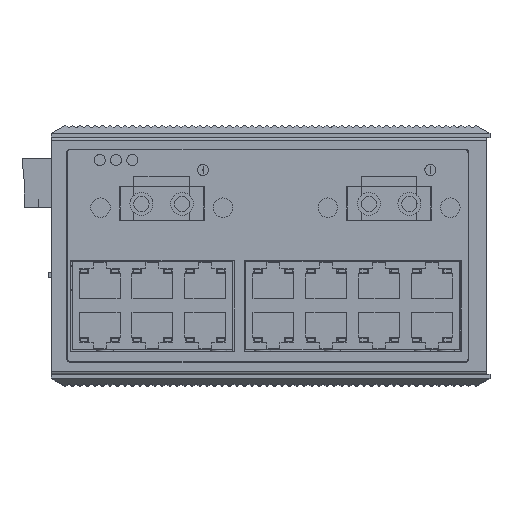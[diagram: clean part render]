
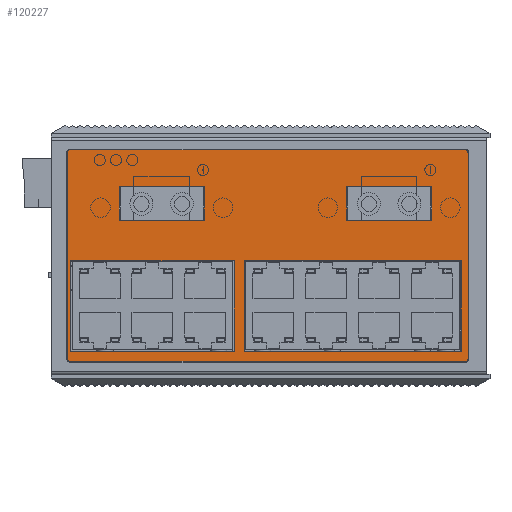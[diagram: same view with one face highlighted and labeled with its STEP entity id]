
A CAD part, top view. The second image highlights one B-rep face of the part: STEP entity #120227.
In plain terms, the highlighted planar face has unit normal (0, 0, 1).
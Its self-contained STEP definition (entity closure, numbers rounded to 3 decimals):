
#119704=DIRECTION('',(0.,1.,0.));
#119705=VECTOR('',#119704,63.5);
#119706=CARTESIAN_POINT('',(-60.63,-30.85,49.3));
#119707=LINE('',#119706,#119705);
#119716=DIRECTION('',(-1.,0.,0.));
#119717=VECTOR('',#119716,121.76);
#119718=CARTESIAN_POINT('',(61.93,-31.65,49.3));
#119719=LINE('',#119718,#119717);
#119728=DIRECTION('',(0.,-1.,0.));
#119729=VECTOR('',#119728,63.5);
#119730=CARTESIAN_POINT('',(62.73,32.65,49.3));
#119731=LINE('',#119730,#119729);
#119740=DIRECTION('',(1.,0.,0.));
#119741=VECTOR('',#119740,121.76);
#119742=CARTESIAN_POINT('',(-59.83,33.45,49.3));
#119743=LINE('',#119742,#119741);
#119752=CARTESIAN_POINT('',(-59.83,-30.85,49.3));
#119753=DIRECTION('',(0.,0.,1.));
#119754=DIRECTION('',(-1.,0.,0.));
#119755=AXIS2_PLACEMENT_3D('',#119752,#119753,#119754);
#119757=CARTESIAN_POINT('',(-59.83,32.65,49.3));
#119758=DIRECTION('',(0.,0.,1.));
#119759=DIRECTION('',(0.,1.,0.));
#119760=AXIS2_PLACEMENT_3D('',#119757,#119758,#119759);
#119762=CARTESIAN_POINT('',(61.93,32.65,49.3));
#119763=DIRECTION('',(0.,0.,1.));
#119764=DIRECTION('',(1.,0.,0.));
#119765=AXIS2_PLACEMENT_3D('',#119762,#119763,#119764);
#119767=CARTESIAN_POINT('',(61.93,-30.85,49.3));
#119768=DIRECTION('',(0.,0.,1.));
#119769=DIRECTION('',(0.,-1.,0.));
#119770=AXIS2_PLACEMENT_3D('',#119767,#119768,#119769);
#119772=DIRECTION('',(0.,-1.,0.));
#119773=VECTOR('',#119772,10.4);
#119774=CARTESIAN_POINT('',(51.56,22.2,49.3));
#119775=LINE('',#119774,#119773);
#119776=DIRECTION('',(1.,0.,0.));
#119777=VECTOR('',#119776,26.2);
#119778=CARTESIAN_POINT('',(25.36,22.2,49.3));
#119779=LINE('',#119778,#119777);
#119780=DIRECTION('',(0.,1.,0.));
#119781=VECTOR('',#119780,10.4);
#119782=CARTESIAN_POINT('',(25.36,11.8,49.3));
#119783=LINE('',#119782,#119781);
#119784=DIRECTION('',(-1.,0.,0.));
#119785=VECTOR('',#119784,26.2);
#119786=CARTESIAN_POINT('',(51.56,11.8,49.3));
#119787=LINE('',#119786,#119785);
#119788=DIRECTION('',(0.,-1.,0.));
#119789=VECTOR('',#119788,10.4);
#119790=CARTESIAN_POINT('',(-18.44,22.2,49.3));
#119791=LINE('',#119790,#119789);
#119792=DIRECTION('',(1.,0.,0.));
#119793=VECTOR('',#119792,26.2);
#119794=CARTESIAN_POINT('',(-44.64,22.2,49.3));
#119795=LINE('',#119794,#119793);
#119796=DIRECTION('',(0.,1.,0.));
#119797=VECTOR('',#119796,10.4);
#119798=CARTESIAN_POINT('',(-44.64,11.8,49.3));
#119799=LINE('',#119798,#119797);
#119800=DIRECTION('',(-1.,0.,0.));
#119801=VECTOR('',#119800,26.2);
#119802=CARTESIAN_POINT('',(-18.44,11.8,49.3));
#119803=LINE('',#119802,#119801);
#119804=DIRECTION('',(0.,1.,0.));
#119805=VECTOR('',#119804,27.95);
#119806=CARTESIAN_POINT('',(-59.625,-28.55,49.3));
#119807=LINE('',#119806,#119805);
#119808=DIRECTION('',(-1.,0.,0.));
#119809=VECTOR('',#119808,50.45);
#119810=CARTESIAN_POINT('',(-9.175,-28.55,49.3));
#119811=LINE('',#119810,#119809);
#119812=DIRECTION('',(0.,-1.,0.));
#119813=VECTOR('',#119812,27.95);
#119814=CARTESIAN_POINT('',(-9.175,-0.6,49.3));
#119815=LINE('',#119814,#119813);
#119816=DIRECTION('',(1.,0.,0.));
#119817=VECTOR('',#119816,50.45);
#119818=CARTESIAN_POINT('',(-59.625,-0.6,49.3));
#119819=LINE('',#119818,#119817);
#119820=DIRECTION('',(1.,0.,0.));
#119821=VECTOR('',#119820,66.81);
#119822=CARTESIAN_POINT('',(-6.175,-0.6,49.3));
#119823=LINE('',#119822,#119821);
#119824=DIRECTION('',(0.,1.,0.));
#119825=VECTOR('',#119824,27.95);
#119826=CARTESIAN_POINT('',(-6.175,-28.55,49.3));
#119827=LINE('',#119826,#119825);
#119828=DIRECTION('',(-1.,0.,0.));
#119829=VECTOR('',#119828,66.81);
#119830=CARTESIAN_POINT('',(60.635,-28.55,49.3));
#119831=LINE('',#119830,#119829);
#119832=DIRECTION('',(0.,-1.,0.));
#119833=VECTOR('',#119832,27.95);
#119834=CARTESIAN_POINT('',(60.635,-0.6,49.3));
#119835=LINE('',#119834,#119833);
#119905=CARTESIAN_POINT('',(-59.83,-31.65,49.3));
#119907=VERTEX_POINT('',#119905);
#119914=CARTESIAN_POINT('',(-60.63,-30.85,49.3));
#119915=VERTEX_POINT('',#119914);
#119928=CARTESIAN_POINT('',(-60.63,32.65,49.3));
#119929=VERTEX_POINT('',#119928);
#119930=CARTESIAN_POINT('',(61.93,-31.65,49.3));
#119931=VERTEX_POINT('',#119930);
#119940=CARTESIAN_POINT('',(25.36,22.2,49.3));
#119941=VERTEX_POINT('',#119940);
#119942=CARTESIAN_POINT('',(25.36,11.8,49.3));
#119943=VERTEX_POINT('',#119942);
#119946=CARTESIAN_POINT('',(-59.83,33.45,49.3));
#119947=VERTEX_POINT('',#119946);
#119958=CARTESIAN_POINT('',(-44.64,22.2,49.3));
#119959=VERTEX_POINT('',#119958);
#119960=CARTESIAN_POINT('',(-44.64,11.8,49.3));
#119961=VERTEX_POINT('',#119960);
#119962=CARTESIAN_POINT('',(51.56,11.8,49.3));
#119963=VERTEX_POINT('',#119962);
#119964=CARTESIAN_POINT('',(51.56,22.2,49.3));
#119965=VERTEX_POINT('',#119964);
#119966=CARTESIAN_POINT('',(61.93,33.45,49.3));
#119967=VERTEX_POINT('',#119966);
#119968=CARTESIAN_POINT('',(62.73,-30.85,49.3));
#119969=VERTEX_POINT('',#119968);
#119974=CARTESIAN_POINT('',(-9.175,-28.55,49.3));
#119975=VERTEX_POINT('',#119974);
#119976=CARTESIAN_POINT('',(-9.175,-0.6,49.3));
#119977=VERTEX_POINT('',#119976);
#119978=CARTESIAN_POINT('',(-18.44,11.8,49.3));
#119979=VERTEX_POINT('',#119978);
#119980=CARTESIAN_POINT('',(-18.44,22.2,49.3));
#119981=VERTEX_POINT('',#119980);
#119982=CARTESIAN_POINT('',(62.73,32.65,49.3));
#119983=VERTEX_POINT('',#119982);
#119984=CARTESIAN_POINT('',(-6.175,-28.55,49.3));
#119985=VERTEX_POINT('',#119984);
#119986=CARTESIAN_POINT('',(60.635,-28.55,49.3));
#119987=VERTEX_POINT('',#119986);
#119988=CARTESIAN_POINT('',(-59.625,-0.6,49.3));
#119989=VERTEX_POINT('',#119988);
#119990=CARTESIAN_POINT('',(-59.625,-28.55,49.3));
#119991=VERTEX_POINT('',#119990);
#119992=CARTESIAN_POINT('',(60.635,-0.6,49.3));
#119993=VERTEX_POINT('',#119992);
#119994=CARTESIAN_POINT('',(-6.175,-0.6,49.3));
#119995=VERTEX_POINT('',#119994);
#120172=CARTESIAN_POINT('',(0.,0.,49.3));
#120173=DIRECTION('',(0.,0.,1.));
#120174=DIRECTION('',(0.,-1.,0.));
#120175=AXIS2_PLACEMENT_3D('',#120172,#120173,#120174);
#120176=PLANE('',#120175);
#120177=ORIENTED_EDGE('',*,*,#120098,.T.);
#120178=ORIENTED_EDGE('',*,*,#120084,.F.);
#120179=ORIENTED_EDGE('',*,*,#120070,.T.);
#120180=ORIENTED_EDGE('',*,*,#120167,.F.);
#120181=ORIENTED_EDGE('',*,*,#120154,.T.);
#120182=ORIENTED_EDGE('',*,*,#120140,.F.);
#120183=ORIENTED_EDGE('',*,*,#120126,.T.);
#120184=ORIENTED_EDGE('',*,*,#120112,.F.);
#120185=EDGE_LOOP('',(#120177,#120178,#120179,#120180,#120181,#120182,#120183,
#120184));
#120186=FACE_OUTER_BOUND('',#120185,.F.);
#120188=ORIENTED_EDGE('',*,*,#120187,.F.);
#120190=ORIENTED_EDGE('',*,*,#120189,.F.);
#120192=ORIENTED_EDGE('',*,*,#120191,.F.);
#120194=ORIENTED_EDGE('',*,*,#120193,.F.);
#120195=EDGE_LOOP('',(#120188,#120190,#120192,#120194));
#120196=FACE_BOUND('',#120195,.F.);
#120198=ORIENTED_EDGE('',*,*,#120197,.F.);
#120200=ORIENTED_EDGE('',*,*,#120199,.F.);
#120202=ORIENTED_EDGE('',*,*,#120201,.F.);
#120204=ORIENTED_EDGE('',*,*,#120203,.F.);
#120205=EDGE_LOOP('',(#120198,#120200,#120202,#120204));
#120206=FACE_BOUND('',#120205,.F.);
#120208=ORIENTED_EDGE('',*,*,#120207,.F.);
#120210=ORIENTED_EDGE('',*,*,#120209,.F.);
#120212=ORIENTED_EDGE('',*,*,#120211,.F.);
#120214=ORIENTED_EDGE('',*,*,#120213,.F.);
#120215=EDGE_LOOP('',(#120208,#120210,#120212,#120214));
#120216=FACE_BOUND('',#120215,.F.);
#120218=ORIENTED_EDGE('',*,*,#120217,.F.);
#120220=ORIENTED_EDGE('',*,*,#120219,.F.);
#120222=ORIENTED_EDGE('',*,*,#120221,.F.);
#120224=ORIENTED_EDGE('',*,*,#120223,.F.);
#120225=EDGE_LOOP('',(#120218,#120220,#120222,#120224));
#120226=FACE_BOUND('',#120225,.F.);
#120227=ADVANCED_FACE('',(#120186,#120196,#120206,#120216,#120226),#120176,.T.);
#119756=CIRCLE('',#119755,0.8);
#119761=CIRCLE('',#119760,0.8);
#119766=CIRCLE('',#119765,0.8);
#119771=CIRCLE('',#119770,0.8);
#120070=EDGE_CURVE('',#119915,#119929,#119707,.T.);
#120084=EDGE_CURVE('',#119915,#119907,#119756,.T.);
#120098=EDGE_CURVE('',#119931,#119907,#119719,.T.);
#120112=EDGE_CURVE('',#119931,#119969,#119771,.T.);
#120126=EDGE_CURVE('',#119983,#119969,#119731,.T.);
#120140=EDGE_CURVE('',#119983,#119967,#119766,.T.);
#120154=EDGE_CURVE('',#119947,#119967,#119743,.T.);
#120167=EDGE_CURVE('',#119947,#119929,#119761,.T.);
#120187=EDGE_CURVE('',#119965,#119963,#119775,.T.);
#120189=EDGE_CURVE('',#119941,#119965,#119779,.T.);
#120191=EDGE_CURVE('',#119943,#119941,#119783,.T.);
#120193=EDGE_CURVE('',#119963,#119943,#119787,.T.);
#120197=EDGE_CURVE('',#119981,#119979,#119791,.T.);
#120199=EDGE_CURVE('',#119959,#119981,#119795,.T.);
#120201=EDGE_CURVE('',#119961,#119959,#119799,.T.);
#120203=EDGE_CURVE('',#119979,#119961,#119803,.T.);
#120207=EDGE_CURVE('',#119991,#119989,#119807,.T.);
#120209=EDGE_CURVE('',#119975,#119991,#119811,.T.);
#120211=EDGE_CURVE('',#119977,#119975,#119815,.T.);
#120213=EDGE_CURVE('',#119989,#119977,#119819,.T.);
#120217=EDGE_CURVE('',#119995,#119993,#119823,.T.);
#120219=EDGE_CURVE('',#119985,#119995,#119827,.T.);
#120221=EDGE_CURVE('',#119987,#119985,#119831,.T.);
#120223=EDGE_CURVE('',#119993,#119987,#119835,.T.);
